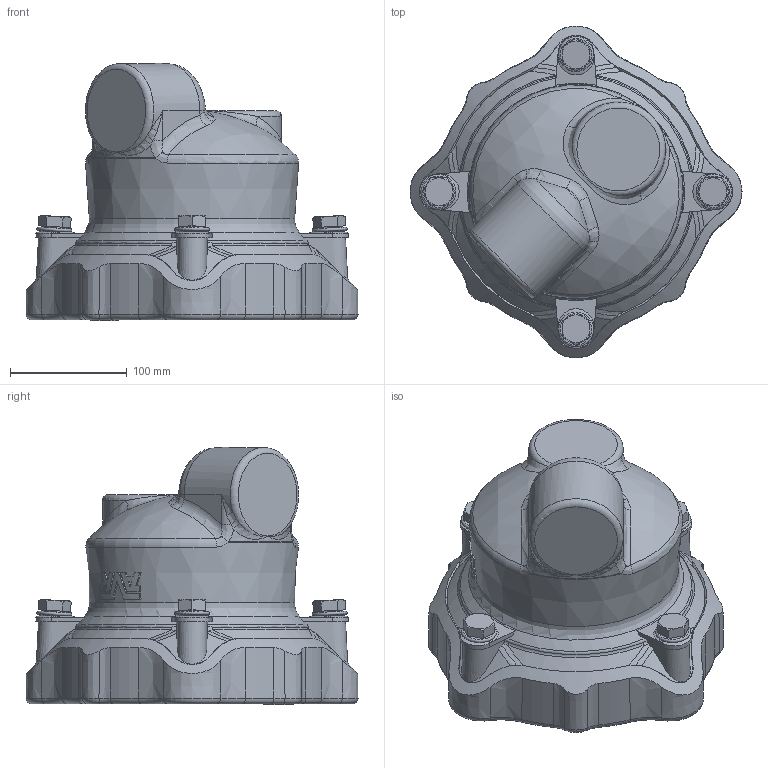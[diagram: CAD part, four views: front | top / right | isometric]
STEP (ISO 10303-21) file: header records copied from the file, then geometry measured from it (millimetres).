
FILE_DESCRIPTION (( 'STEP AP203' ), '1' );
FILE_NAME ('O_634_00_DN125_132-161mm_AA0_step.step', '2016-05-10T10:40:35', ( 'Windows User' ), ( 'AVK' ), 'SwSTEP 2.0', 'SolidWorks 2012', '' );
FILE_SCHEMA (( 'CONFIG_CONTROL_DESIGN' ));
Length unit declared in the file: millimetre
Products named in the file (1): O_634_00_DN125_132-161mm_AA0_step
Bounding box: 284.76 x 284.76 x 220.5 mm (x, y, z)
Volume: 3035493.8 mm3; surface area: 286099.8 mm2
Topology: 1 solids, 1 shells, 473 faces, 1253 edges, 796 vertices
Faces by surface type: plane 133, cylinder 105, bspline 88, cone 77, torus 62, sphere 8
Full cylindrical faces by diameter (mm): 20 x4, 161 x3, 164 x1
Entity records: 21545 total; most frequent: CARTESIAN_POINT 11025, ORIENTED_EDGE 2440, DIRECTION 1840, EDGE_CURVE 1220, VERTEX_POINT 785, AXIS2_PLACEMENT_3D 748, EDGE_LOOP 509, FACE_OUTER_BOUND 487
